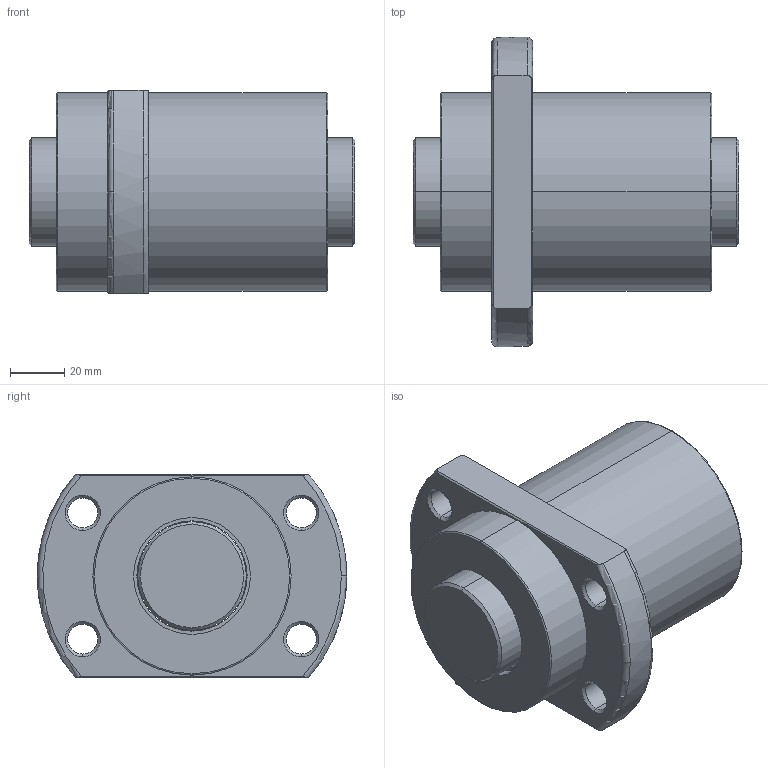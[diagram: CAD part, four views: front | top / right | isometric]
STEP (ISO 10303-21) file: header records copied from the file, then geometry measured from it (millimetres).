
FILE_DESCRIPTION (( 'STEP AP203' ), '1' );
FILE_NAME ('SFTER04040A2D-C.STEP', '2020-06-18T01:58:17', ( '' ), ( '' ), 'SwSTEP 2.0', 'SolidWorks 2013', '' );
FILE_SCHEMA (( 'CONFIG_CONTROL_DESIGN' ));
Length unit declared in the file: millimetre
Products named in the file (1): SFTER04040A2D-C
Bounding box: 120 x 114 x 75 mm (x, y, z)
Volume: 472421.6 mm3; surface area: 70792.4 mm2
Topology: 2 solids, 4 shells, 89 faces, 198 edges, 124 vertices
Faces by surface type: cylinder 38, plane 21, cone 20, torus 10
Entity records: 3148 total; most frequent: CARTESIAN_POINT 1019, DIRECTION 460, ORIENTED_EDGE 396, EDGE_CURVE 198, AXIS2_PLACEMENT_3D 196, VERTEX_POINT 124, EDGE_LOOP 112, CIRCLE 106
